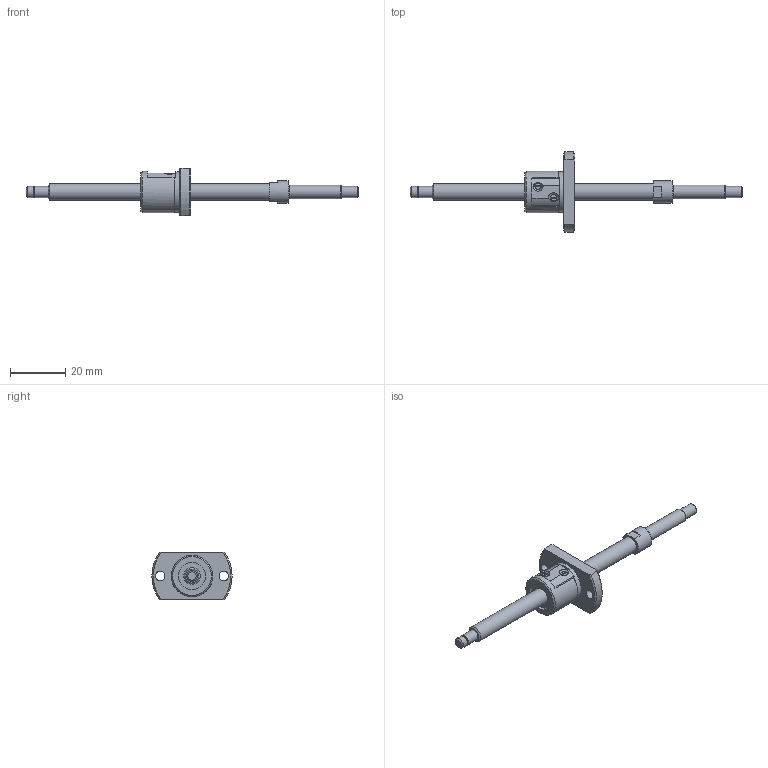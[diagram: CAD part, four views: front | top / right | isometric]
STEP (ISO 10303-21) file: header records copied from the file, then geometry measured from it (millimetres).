
FILE_DESCRIPTION(/* description */ ('STEP AP214'),/* implementation_level */ '2;1');
FILE_NAME(/* name */ 'SG0602.5-077R120C5B0X(33.5)',/* time_stamp */ '2026-07-20T20:17:22+02:00',/* author */ ('License CC BY-ND 4.0'),/* organization */ ('CADENAS'),/* preprocessor_version */ 'ST-DEVELOPER v20',/* originating_system */ 'PARTsolutions',/* authorisation */ ' ');
FILE_SCHEMA (('AUTOMOTIVE_DESIGN {1 0 10303 214 3 1 1}'));
Length unit declared in the file: millimetre
Products named in the file (3): SG0602.5-077R120C5B0X(33.5); SG0602.5-77R120C5B_shaft; SG0602.5 C5_nut
Assembly tree (2 placements, depth 2):
  SG0602.5-077R120C5B0X(33.5)
    SG0602.5-77R120C5B_shaft
    SG0602.5 C5_nut
Bounding box: 120 x 29 x 17 mm (x, y, z)
Volume: 6699.8 mm3; surface area: 4525.2 mm2
Topology: 2 solids, 2 shells, 78 faces, 185 edges, 122 vertices
Faces by surface type: plane 37, cylinder 26, cone 14, torus 1
Full cylindrical faces by diameter (mm): 3.4 x2, 3.7 x1, 4 x3, 5 x1, 6 x2, 8 x1, 10 x2, 14.6 x1, 15 x1
Entity records: 2167 total; most frequent: CARTESIAN_POINT 403, DIRECTION 368, ORIENTED_EDGE 300, AXIS2_PLACEMENT_3D 155, EDGE_CURVE 150, EDGE_LOOP 120, FACE_BOUND 120, VERTEX_POINT 112
